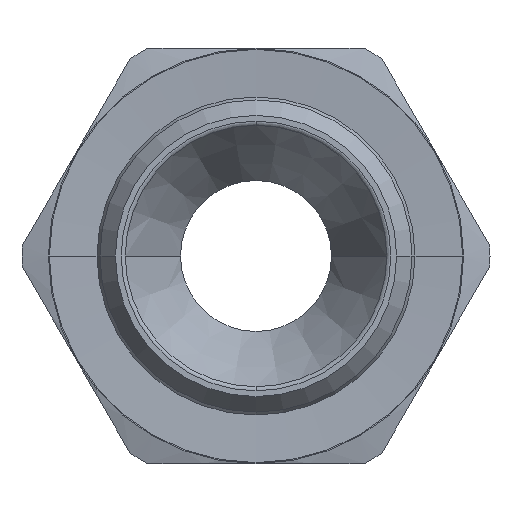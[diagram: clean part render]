
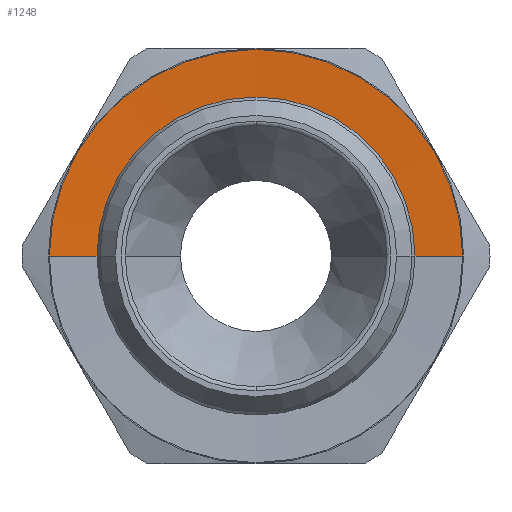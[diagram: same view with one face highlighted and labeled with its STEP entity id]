
A CAD part, left-side view. The second image highlights one B-rep face of the part: STEP entity #1248.
In plain terms, the highlighted conical face has half-angle 87 degrees and reference radius 9.688 mm.
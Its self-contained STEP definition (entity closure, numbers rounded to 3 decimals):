
#1174=CARTESIAN_POINT('',(0.,-10.95,5.5));
#1175=VERTEX_POINT('',#1174);
#1184=CARTESIAN_POINT('',(0.,10.95,5.5));
#1185=VERTEX_POINT('',#1184);
#1211=CARTESIAN_POINT('',(0.,0.,5.434));
#1212=DIRECTION('',(0.,0.,1.0));
#1213=DIRECTION('',(0.0,-1.0,0.0));
#1214=AXIS2_PLACEMENT_3D('',#1211,#1212,#1213);
#1215=CONICAL_SURFACE('',#1214,9.687,87.);
#1216=CARTESIAN_POINT('',(0.,-8.425,5.368));
#1217=VERTEX_POINT('',#1216);
#1218=CARTESIAN_POINT('',(0.,-10.95,5.5));
#1219=DIRECTION('',(0.,0.999,-0.052));
#1220=VECTOR('',#1219,2.528);
#1221=LINE('',#1218,#1220);
#1222=EDGE_CURVE('',#1175,#1217,#1221,.T.);
#1223=ORIENTED_EDGE('',*,*,#1222,.F.);
#1224=CARTESIAN_POINT('',(0.,0.,5.5));
#1225=DIRECTION('',(0.0,0.0,-1.0));
#1226=DIRECTION('',(0.0,-1.0,0.0));
#1227=AXIS2_PLACEMENT_3D('',#1224,#1225,#1226);
#1228=CIRCLE('',#1227,10.95);
#1229=EDGE_CURVE('',#1185,#1175,#1228,.T.);
#1230=ORIENTED_EDGE('',*,*,#1229,.F.);
#1231=CARTESIAN_POINT('',(0.,8.425,5.368));
#1232=VERTEX_POINT('',#1231);
#1233=CARTESIAN_POINT('',(0.,8.425,5.368));
#1234=DIRECTION('',(0.,0.999,0.052));
#1235=VECTOR('',#1234,2.528);
#1236=LINE('',#1233,#1235);
#1237=EDGE_CURVE('',#1232,#1185,#1236,.T.);
#1238=ORIENTED_EDGE('',*,*,#1237,.F.);
#1239=CARTESIAN_POINT('',(0.,0.,5.368));
#1240=DIRECTION('',(0.0,0.0,-1.0));
#1241=DIRECTION('',(0.0,-1.0,0.0));
#1242=AXIS2_PLACEMENT_3D('',#1239,#1240,#1241);
#1243=CIRCLE('',#1242,8.425);
#1244=EDGE_CURVE('',#1232,#1217,#1243,.T.);
#1245=ORIENTED_EDGE('',*,*,#1244,.T.);
#1246=EDGE_LOOP('',(#1223,#1230,#1238,#1245));
#1247=FACE_OUTER_BOUND('',#1246,.T.);
#1248=ADVANCED_FACE('',(#1247),#1215,.F.);
